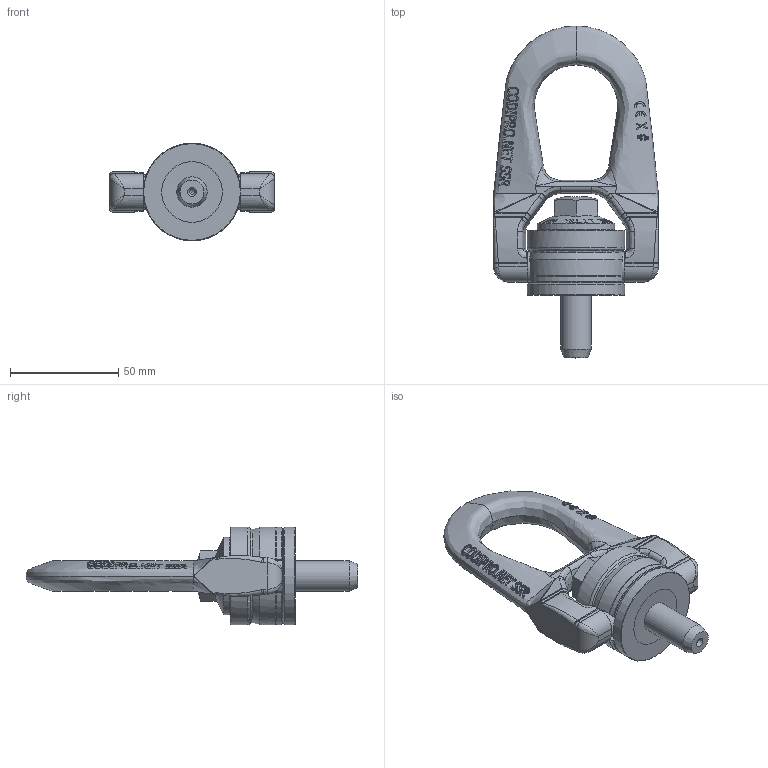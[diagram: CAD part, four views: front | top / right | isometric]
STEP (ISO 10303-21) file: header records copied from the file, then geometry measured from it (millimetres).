
FILE_DESCRIPTION(/* description */ (''),/* implementation_level */ '2;1');
FILE_NAME(/* name */ 'W:\CODIPRO\DOCUMENTS\Plans A NE PAS DIFFUSER !!!\Fichiers STEP\Gamme 2018\Produits NON GRADUP\SS DSR\SS DSR M14.stp',/* time_stamp */ '2017-09-26T13:06:56+02:00',/* author */ ('rklenes'),/* organization */ (''),/* preprocessor_version */ 'ST-DEVELOPER v16.5',/* originating_system */ 'Autodesk Inventor 2017',/* authorisation */ '');
FILE_SCHEMA (('AUTOMOTIVE_DESIGN { 1 0 10303 214 3 1 1 }'));
Products named in the file (5): SS DSR M14; DRM_AF2B-1; DRB_B2B; DRE_D2M14A; SS_DRA_M14X59
Assembly tree (4 placements, depth 2):
  SS DSR M14
    DRM_AF2B-1
    DRB_B2B
    DRE_D2M14A
    SS_DRA_M14X59
Bounding box: 76 x 153.25 x 45 mm (x, y, z)
Volume: 111986.3 mm3; surface area: 36043.6 mm2
Topology: 4 solids, 4 shells, 788 faces, 2061 edges, 1311 vertices
Faces by surface type: plane 359, bspline 294, cylinder 81, cone 42, torus 11, sphere 1
Full cylindrical faces by diameter (mm): 2 x1, 14 x5, 14.2 x1, 22.6 x2, 23 x2, 32 x1, 36 x1, 45 x2
Entity records: 43200 total; most frequent: CARTESIAN_POINT 26011, ORIENTED_EDGE 4010, DIRECTION 2774, EDGE_CURVE 2005, VERTEX_POINT 1303, AXIS2_PLACEMENT_3D 1035, EDGE_LOOP 872, FACE_OUTER_BOUND 788
